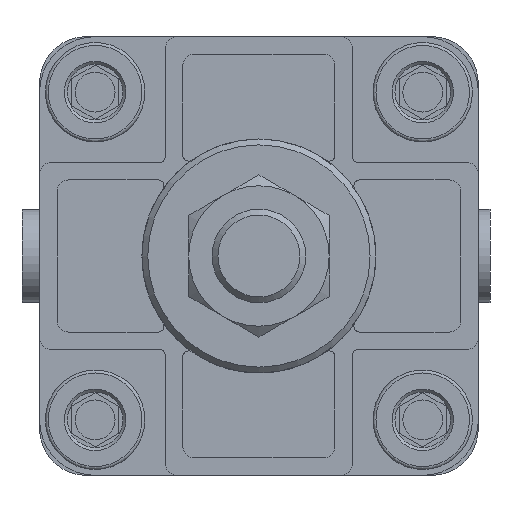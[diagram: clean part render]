
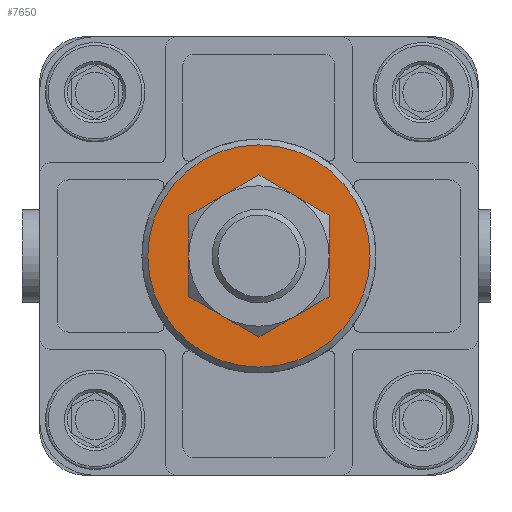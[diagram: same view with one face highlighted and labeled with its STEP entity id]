
A CAD part, front view. The second image highlights one B-rep face of the part: STEP entity #7650.
In plain terms, the highlighted planar face has unit normal (0, -1, 0).
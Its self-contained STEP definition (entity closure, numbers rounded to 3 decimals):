
#478=CIRCLE('',#8241,11.);
#479=CIRCLE('',#8242,19.);
#1518=ORIENTED_EDGE('',*,*,#2697,.T.);
#1519=ORIENTED_EDGE('',*,*,#2698,.T.);
#2697=EDGE_CURVE('',#3372,#3372,#478,.T.);
#2698=EDGE_CURVE('',#3373,#3373,#479,.F.);
#3372=VERTEX_POINT('',#11370);
#3373=VERTEX_POINT('',#11372);
#4786=EDGE_LOOP('',(#1518));
#4787=EDGE_LOOP('',(#1519));
#5294=FACE_BOUND('',#4786,.T.);
#5295=FACE_BOUND('',#4787,.T.);
#5661=PLANE('',#8240);
#7650=ADVANCED_FACE('',(#5294,#5295),#5661,.F.);
#8240=AXIS2_PLACEMENT_3D('',#11368,#9569,#9570);
#8241=AXIS2_PLACEMENT_3D('',#11369,#9571,#9572);
#8242=AXIS2_PLACEMENT_3D('',#11371,#9573,#9574);
#9569=DIRECTION('',(0.,1.,0.));
#9570=DIRECTION('',(0.,0.,1.));
#9571=DIRECTION('',(0.,1.,0.));
#9572=DIRECTION('',(0.,0.,1.));
#9573=DIRECTION('',(0.,1.,0.));
#9574=DIRECTION('',(0.,0.,1.));
#11368=CARTESIAN_POINT('',(0.,-48.5,0.));
#11369=CARTESIAN_POINT('',(0.,-48.5,0.));
#11370=CARTESIAN_POINT('',(0.,-48.5,11.));
#11371=CARTESIAN_POINT('',(0.,-48.5,0.));
#11372=CARTESIAN_POINT('',(0.,-48.5,19.));
